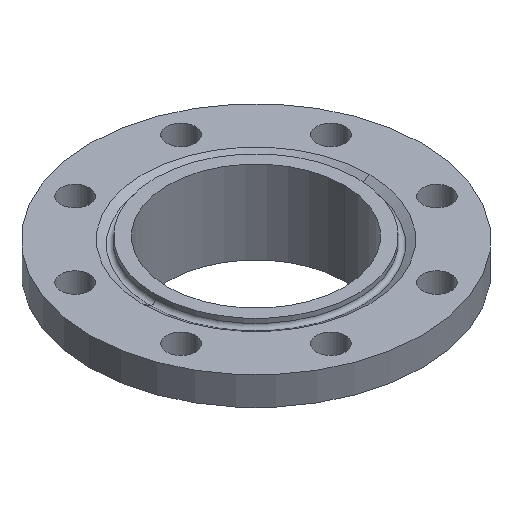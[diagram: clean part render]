
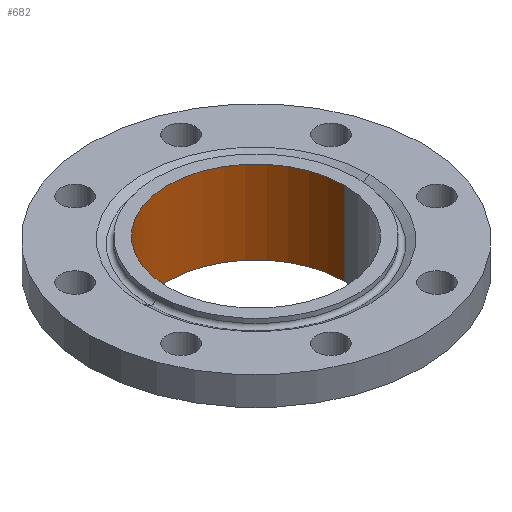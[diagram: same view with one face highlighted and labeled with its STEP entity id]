
A CAD part, isometric view. The second image highlights one B-rep face of the part: STEP entity #682.
In plain terms, the highlighted cylindrical face has radius 79.65 mm (diameter 159.3 mm), a partial arc.
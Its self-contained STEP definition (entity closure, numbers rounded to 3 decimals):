
#1 = DIRECTION ( 'NONE',  ( 0., 0., -1. ) ) ;
#19 = AXIS2_PLACEMENT_3D ( 'NONE', #623, #871, #67 ) ;
#67 = DIRECTION ( 'NONE',  ( -1., 0., 0. ) ) ;
#71 = VERTEX_POINT ( 'NONE', #243 ) ;
#148 = EDGE_CURVE ( 'NONE', #1109, #71, #505, .T. ) ;
#194 = FACE_OUTER_BOUND ( 'NONE', #591, .T. ) ;
#200 = CIRCLE ( 'NONE', #217, 79.65 ) ;
#217 = AXIS2_PLACEMENT_3D ( 'NONE', #1028, #264, #657 ) ;
#243 = CARTESIAN_POINT ( 'NONE',  ( 79.65, 0., -75. ) ) ;
#249 = VECTOR ( 'NONE', #934, 1000. ) ;
#264 = DIRECTION ( 'NONE',  ( 0., 0., -1. ) ) ;
#373 = EDGE_CURVE ( 'NONE', #923, #1109, #416, .T. ) ;
#412 = AXIS2_PLACEMENT_3D ( 'NONE', #827, #1, #479 ) ;
#416 = CIRCLE ( 'NONE', #412, 79.65 ) ;
#424 = LINE ( 'NONE', #678, #249 ) ;
#433 = VECTOR ( 'NONE', #1160, 1000. ) ;
#434 = CYLINDRICAL_SURFACE ( 'NONE', #19, 79.65 ) ;
#479 = DIRECTION ( 'NONE',  ( -1., 0., 0. ) ) ;
#483 = VERTEX_POINT ( 'NONE', #1134 ) ;
#505 = LINE ( 'NONE', #788, #433 ) ;
#591 = EDGE_LOOP ( 'NONE', ( #1158, #1178, #1180, #1181 ) ) ;
#623 = CARTESIAN_POINT ( 'NONE',  ( 0., 0., -85. ) ) ;
#657 = DIRECTION ( 'NONE',  ( -1., 0., 0. ) ) ;
#662 = EDGE_CURVE ( 'NONE', #923, #483, #424, .T. ) ;
#678 = CARTESIAN_POINT ( 'NONE',  ( -79.65, 0., -85. ) ) ;
#682 = ADVANCED_FACE ( 'NONE', ( #194 ), #434, .F. ) ;
#788 = CARTESIAN_POINT ( 'NONE',  ( 79.65, 0., -85. ) ) ;
#827 = CARTESIAN_POINT ( 'NONE',  ( 0., 0., 0. ) ) ;
#836 = EDGE_CURVE ( 'NONE', #483, #71, #200, .T. ) ;
#871 = DIRECTION ( 'NONE',  ( 0., 0., -1. ) ) ;
#923 = VERTEX_POINT ( 'NONE', #1063 ) ;
#934 = DIRECTION ( 'NONE',  ( 0., 0., -1. ) ) ;
#1028 = CARTESIAN_POINT ( 'NONE',  ( 0., 0., -75. ) ) ;
#1063 = CARTESIAN_POINT ( 'NONE',  ( -79.65, 0., 0. ) ) ;
#1109 = VERTEX_POINT ( 'NONE', #1206 ) ;
#1134 = CARTESIAN_POINT ( 'NONE',  ( -79.65, 0., -75. ) ) ;
#1158 = ORIENTED_EDGE ( 'NONE', *, *, #148, .F. ) ;
#1160 = DIRECTION ( 'NONE',  ( 0., 0., -1. ) ) ;
#1178 = ORIENTED_EDGE ( 'NONE', *, *, #373, .F. ) ;
#1180 = ORIENTED_EDGE ( 'NONE', *, *, #662, .T. ) ;
#1181 = ORIENTED_EDGE ( 'NONE', *, *, #836, .T. ) ;
#1206 = CARTESIAN_POINT ( 'NONE',  ( 79.65, 0., 0. ) ) ;
